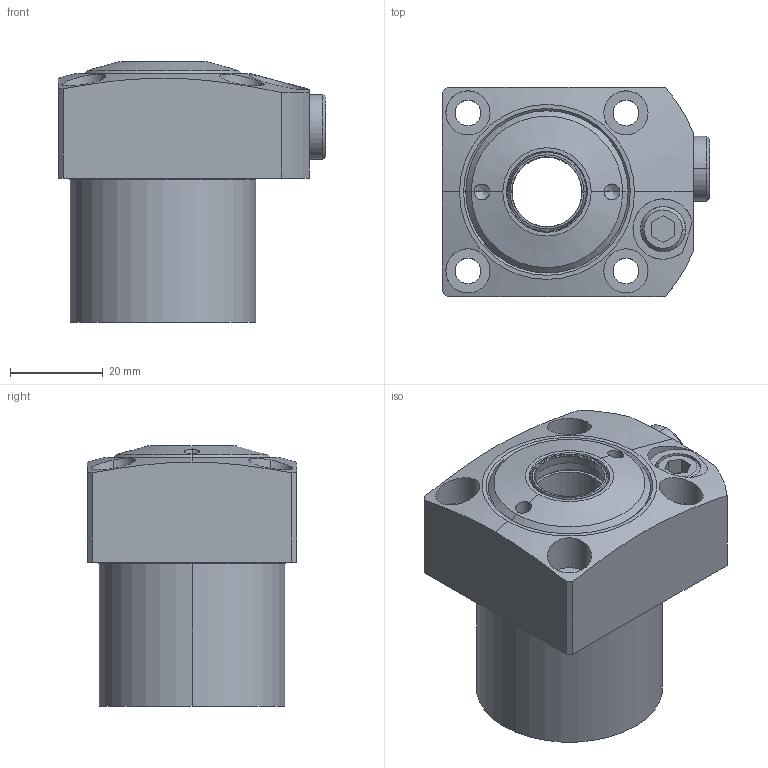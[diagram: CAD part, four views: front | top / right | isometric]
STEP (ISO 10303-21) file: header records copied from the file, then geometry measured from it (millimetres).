
FILE_DESCRIPTION(/* description */ (''),/* implementation_level */ '2;1');
FILE_NAME(/* name */ 'KFSS40-C.stp',/* time_stamp */ '2022-11-17T07:48:41+08:00',/* author */ (''),/* organization */ (''),/* preprocessor_version */ 'ST-DEVELOPER v16.7',/* originating_system */ 'SIEMENS PLM Software NX 12.0',/* authorisation */ '');
FILE_SCHEMA (('AP203_CONFIGURATION_CONTROLLED_3D_DESIGN_OF_MECHANICAL_PARTS_AND_ASSEMBLIES_MIM_LF { 1 0 10303 403 2 1 2}'));
Length unit declared in the file: millimetre
Products named in the file (4): KFSS40-C-01; KFSS40-C-02; KFSS40-C-03; LC0402-Cx-D_step
Assembly tree (3 placements, depth 2):
  LC0402-Cx-D_step
    KFSS40-C-03
    KFSS40-C-02
    KFSS40-C-01
Bounding box: 57.5 x 45 x 56 mm (x, y, z)
Volume: 77634 mm3; surface area: 18681.8 mm2
Topology: 3 solids, 3 shells, 157 faces, 340 edges, 204 vertices
Faces by surface type: cone 50, cylinder 48, plane 43, torus 16
Entity records: 4890 total; most frequent: CARTESIAN_POINT 935, DIRECTION 803, ORIENTED_EDGE 672, EDGE_CURVE 336, AXIS2_PLACEMENT_3D 328, VERTEX_POINT 204, EDGE_LOOP 186, CIRCLE 167
